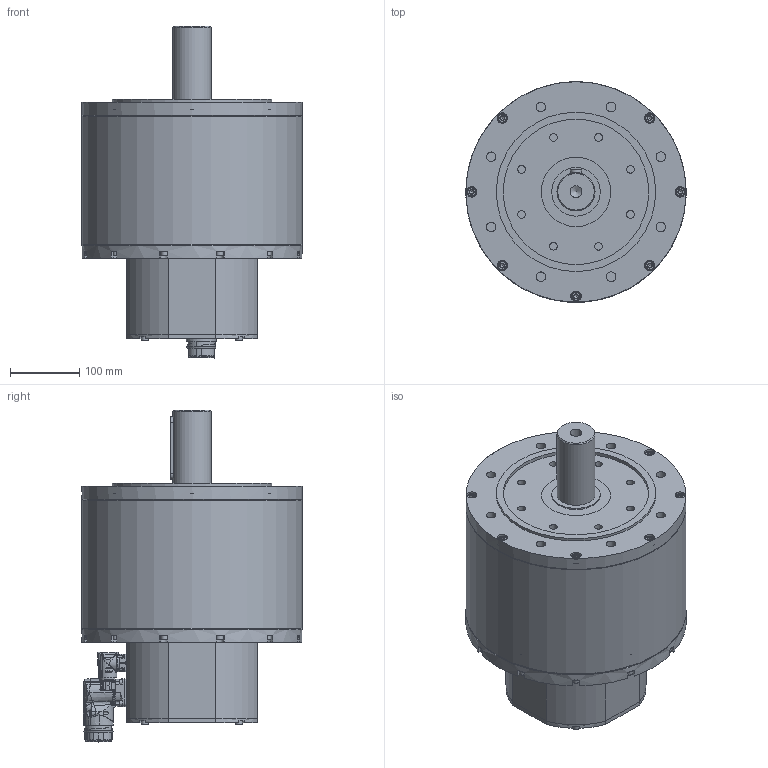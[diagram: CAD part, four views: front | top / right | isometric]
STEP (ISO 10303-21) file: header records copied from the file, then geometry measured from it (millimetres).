
FILE_DESCRIPTION(/* description */ (''),/* implementation_level */ '2;1');
FILE_NAME(/* name */ 'C:\Users\Public\Documents\Autodesk\Inventor LT 2014\Workspace\Motori Sito WEB\TG_8\STEP_DSM5_8x\DSM5_81_x199.stp',/* time_stamp */ '2021-03-31T14:31:50+02:00',/* author */ ('marcor'),/* organization */ (''),/* preprocessor_version */ 'ST-DEVELOPER v15.2',/* originating_system */ 'Autodesk Inventor LT ',/* authorisation */ '');
FILE_SCHEMA (('AUTOMOTIVE_DESIGN { 1 0 10303 214 3 1 1 }'));
Products named in the file (1): DSM5_81_x199
Bounding box: 318 x 318 x 479 mm (x, y, z)
Volume: 21810532.7 mm3; surface area: 1031792.7 mm2
Topology: 29 solids, 36 shells, 1971 faces, 5129 edges, 3360 vertices
Faces by surface type: plane 878, cylinder 417, cone 415, bspline 137, torus 107, sphere 17
Full cylindrical faces by diameter (mm): 1.2 x12, 2 x2, 2.224 x4, 2.5 x4, 2.88 x4, 3.26 x4, 3.6 x5, 4 x5, 4.5 x1, 4.8 x4, 4.917 x16, 5.4 x1, 5.5 x1, 5.9 x1, 6 x16, 6.5 x20, 6.647 x8, 7 x4, 8 x10, 8.5 x1, 9 x7, 10 x16, 10.106 x2, 11 x8, 13 x7, 13.835 x8, 15 x7, 15.2 x1, 17.294 x1, 17.4 x2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
Entity records: 65174 total; most frequent: CARTESIAN_POINT 19240, ORIENTED_EDGE 8984, DIRECTION 8718, EDGE_CURVE 4490, AXIS2_PLACEMENT_3D 3441, VERTEX_POINT 3184, EDGE_LOOP 2666, ADVANCED_FACE 1971
